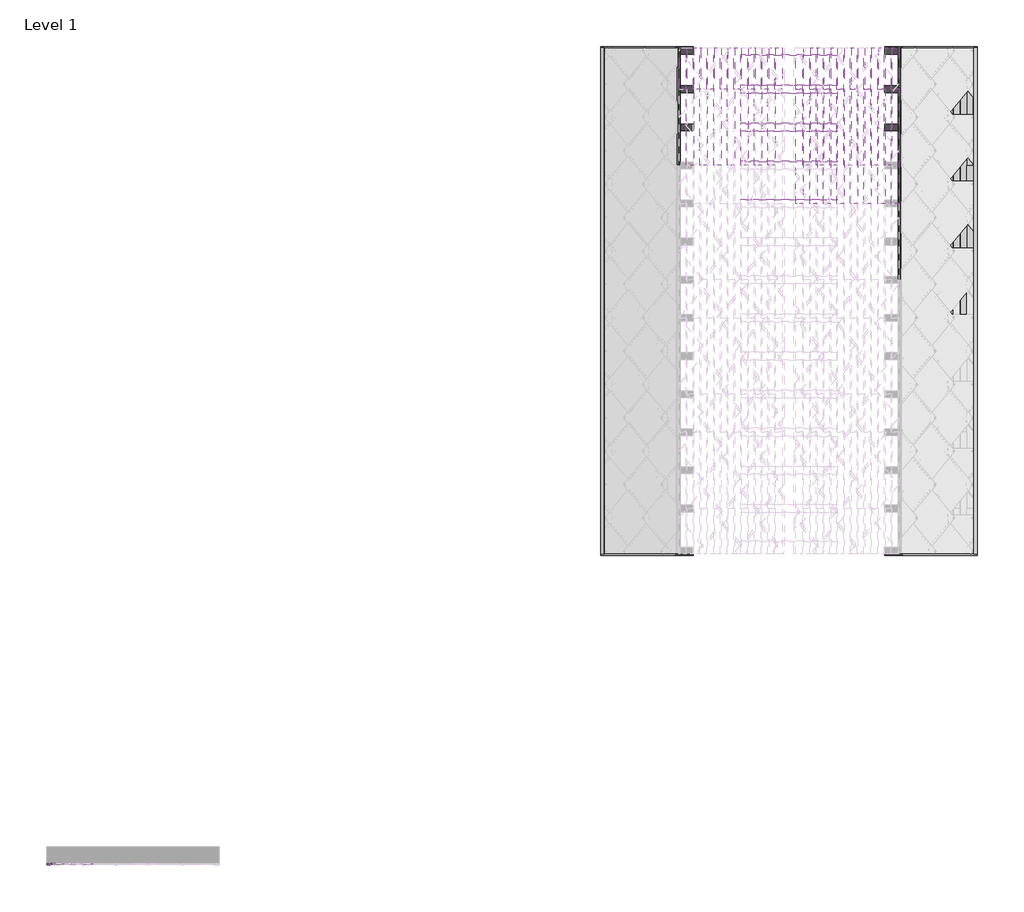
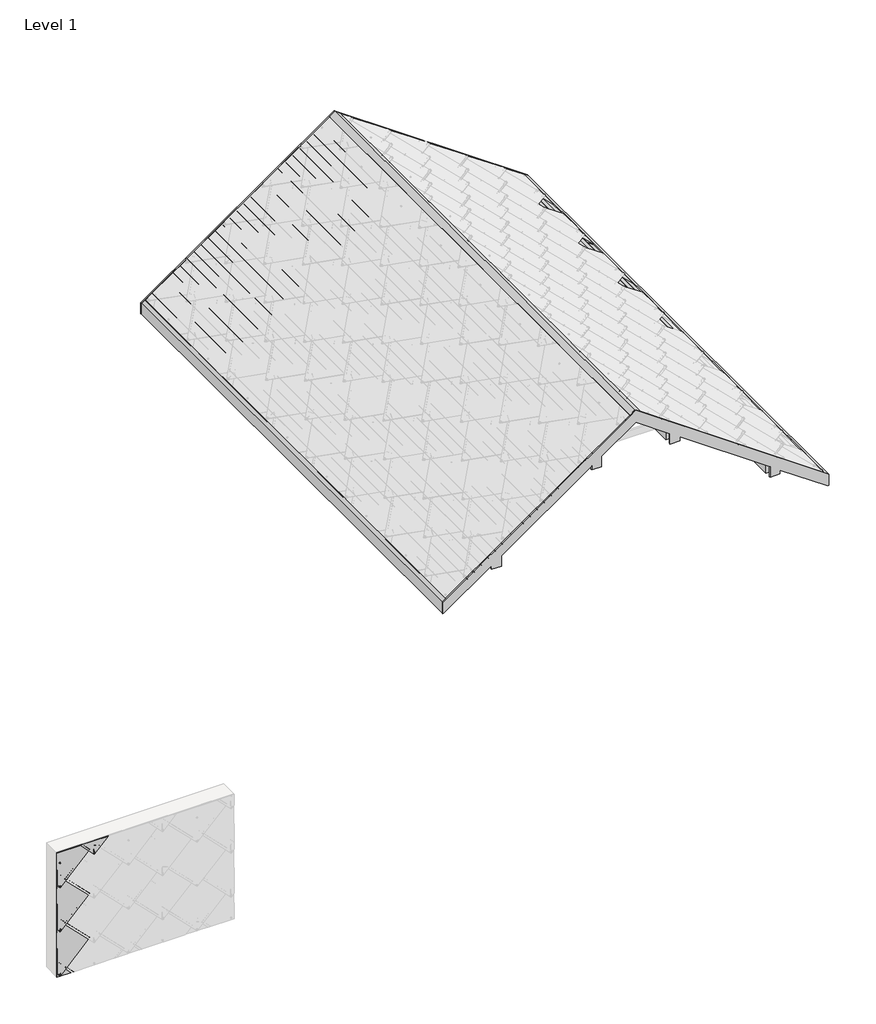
# One storey, part 3 of 6: 98 beams, 5 proxies.
"""IFC4 building model written with IfcOpenShell, lengths in millimetres."""

from ifc_helpers import new_model, si_unit, origin, place, context, project, spatial, transform, mapped, element, save
from components import structural_framing_1_structural_framing_1_4f4e03de, structural_framing_104_structural_framing_15_200a1adf, structural_framing_105_structural_framing_15_bbb8b2a2, structural_framing_150_structural_framing_15_f334a7cf, structural_framing_151_structural_framing_15_911aee75, structural_framing_152_structural_framing_15_fae30983, structural_framing_154_structural_framing_15_ddedf780, structural_framing_156_structural_framing_15_8572bb24, structural_framing_164_structural_framing_15_c8a2bcaa, structural_framing_155_structural_framing_15_fbad98d9, structural_framing_161_structural_framing_15_e03e88da, structural_framing_290_structural_framing_15_fb813978, structural_framing_291_structural_framing_15_41421fa0, structural_framing_293_structural_framing_15_7859e044, structural_framing_294_structural_framing_15_d6bc8154, structural_framing_295_structural_framing_295_6c3cb5e9, structural_framing_296_structural_framing_296_04115515, structural_framing_298_structural_framing_296_1c13a3da, structural_framing_321_structural_framing_321_04959c51, structural_framing_323_structural_framing_323_983c3ce1, structural_framing_324_structural_framing_323_6074106b, corner_bottom_small_left_black_13c94d74, corner_top_big_left_black_c61de7e8, roofing_panels_sunstyle_tile_shingle_left_shingle_left_black_68cb1fd1, roofing_panels_sunstyle_tile_shingle_top_small_shingle_top_f7f51557

model = new_model("IFC4")

# Units and contexts
model_context = context("Model", 3, world=origin())
ifc_project = project(units=[si_unit("LENGTHUNIT", "METRE", prefix="MILLI")], contexts=[model_context])

# Site, building, storey
site = spatial("IfcSite", under=ifc_project)
building = spatial("IfcBuilding", under=site)
storey = spatial("IfcBuildingStorey", under=building, Name="Level 1", Elevation=0.0)

# Beams
placement = place(None, origin())
structural_framing_1_structural_framing_1_shape = structural_framing_1_structural_framing_1_4f4e03de(model_context)
element("IfcBeam", 1, ObjectType="Structural Framing 1 : Structural Framing 1", at=placement, inside=storey, context=model_context, shape_type="MappedRepresentation", body=[
    mapped(structural_framing_1_structural_framing_1_shape, transform((0.0, 0.0, 0.0), x_axis=(1.0, 0.0, 0.0), y_axis=(0.0, 1.0, 0.0), z_axis=(0.0, 0.0, 1.0))),
])
structural_framing_104_structural_framing_15_shape = structural_framing_104_structural_framing_15_200a1adf(model_context)
element("IfcBeam", 2, ObjectType="Structural Framing 104 : Structural Framing 15", at=placement, inside=storey, context=model_context, shape_type="MappedRepresentation", body=[
    mapped(structural_framing_104_structural_framing_15_shape, transform((-2427.8516115, 0.0, -1700.0), x_axis=(1.0, 0.0, 0.0), y_axis=(0.0, 1.0, 0.0), z_axis=(0.0, 0.0, 1.0))),
])
structural_framing_105_structural_framing_15_shape = structural_framing_105_structural_framing_15_bbb8b2a2(model_context)
element("IfcBeam", 3, ObjectType="Structural Framing 105 : Structural Framing 15", at=placement, inside=storey, context=model_context, shape_type="MappedRepresentation", body=[
    mapped(structural_framing_105_structural_framing_15_shape, transform((-2570.6664121, 0.0, -1800.0), x_axis=(1.0, 0.0, 0.0), y_axis=(0.0, 1.0, 0.0), z_axis=(0.0, 0.0, 1.0))),
])
element("IfcBeam", 4, ObjectType="Structural Framing 114 : Structural Framing 15", at=placement, inside=storey, context=model_context, shape_type="MappedRepresentation", body=[
    mapped(structural_framing_104_structural_framing_15_shape, transform((-2713.4812128, 0.0, -1900.0), x_axis=(1.0, 0.0, 0.0), y_axis=(0.0, 1.0, 0.0), z_axis=(0.0, 0.0, 1.0))),
])
element("IfcBeam", 5, ObjectType="Structural Framing 115 : Structural Framing 15", at=placement, inside=storey, context=model_context, shape_type="MappedRepresentation", body=[
    mapped(structural_framing_105_structural_framing_15_shape, transform((-2856.2960135, 0.0, -2000.0), x_axis=(1.0, 0.0, 0.0), y_axis=(0.0, 1.0, 0.0), z_axis=(0.0, 0.0, 1.0))),
])
element("IfcBeam", 6, ObjectType="Structural Framing 124 : Structural Framing 15", at=placement, inside=storey, context=model_context, shape_type="MappedRepresentation", body=[
    mapped(structural_framing_104_structural_framing_15_shape, transform((-2999.1108142, 0.0, -2100.0), x_axis=(1.0, 0.0, 0.0), y_axis=(0.0, 1.0, 0.0), z_axis=(0.0, 0.0, 1.0))),
])
element("IfcBeam", 7, ObjectType="Structural Framing 125 : Structural Framing 15", at=placement, inside=storey, context=model_context, shape_type="MappedRepresentation", body=[
    mapped(structural_framing_105_structural_framing_15_shape, transform((-3141.9256148, 0.0, -2200.0), x_axis=(1.0, 0.0, 0.0), y_axis=(0.0, 1.0, 0.0), z_axis=(0.0, 0.0, 1.0))),
])
element("IfcBeam", 8, ObjectType="Structural Framing 134 : Structural Framing 15", at=placement, inside=storey, context=model_context, shape_type="MappedRepresentation", body=[
    mapped(structural_framing_104_structural_framing_15_shape, transform((-3284.7404155, 0.0, -2300.0), x_axis=(1.0, 0.0, 0.0), y_axis=(0.0, 1.0, 0.0), z_axis=(0.0, 0.0, 1.0))),
])
element("IfcBeam", 9, ObjectType="Structural Framing 135 : Structural Framing 15", at=placement, inside=storey, context=model_context, shape_type="MappedRepresentation", body=[
    mapped(structural_framing_105_structural_framing_15_shape, transform((-3427.5552162, 0.0, -2400.0), x_axis=(1.0, 0.0, 0.0), y_axis=(0.0, 1.0, 0.0), z_axis=(0.0, 0.0, 1.0))),
])
element("IfcBeam", 10, ObjectType="Structural Framing 144 : Structural Framing 15", at=placement, inside=storey, context=model_context, shape_type="MappedRepresentation", body=[
    mapped(structural_framing_104_structural_framing_15_shape, transform((-3570.3700169, 0.0, -2500.0), x_axis=(1.0, 0.0, 0.0), y_axis=(0.0, 1.0, 0.0), z_axis=(0.0, 0.0, 1.0))),
])
element("IfcBeam", 11, ObjectType="Structural Framing 145 : Structural Framing 15", at=placement, inside=storey, context=model_context, shape_type="MappedRepresentation", body=[
    mapped(structural_framing_105_structural_framing_15_shape, transform((-3713.1848175, 0.0, -2600.0), x_axis=(1.0, 0.0, 0.0), y_axis=(0.0, 1.0, 0.0), z_axis=(0.0, 0.0, 1.0))),
])
structural_framing_150_structural_framing_15_shape = structural_framing_150_structural_framing_15_f334a7cf(model_context)
element("IfcBeam", 12, ObjectType="Structural Framing 150 : Structural Framing 15", at=placement, inside=storey, context=model_context, shape_type="MappedRepresentation", body=[
    mapped(structural_framing_150_structural_framing_15_shape, transform((0.0, 0.0, 0.0), x_axis=(1.0, 0.0, 0.0), y_axis=(0.0, 1.0, 0.0), z_axis=(0.0, 0.0, 1.0))),
])
structural_framing_151_structural_framing_15_shape = structural_framing_151_structural_framing_15_911aee75(model_context)
element("IfcBeam", 13, ObjectType="Structural Framing 151 : Structural Framing 15", at=placement, inside=storey, context=model_context, shape_type="MappedRepresentation", body=[
    mapped(structural_framing_151_structural_framing_15_shape, transform((0.0, 2367.5, 0.0), x_axis=(1.0, 0.0, 0.0), y_axis=(0.0, 1.0, 0.0), z_axis=(0.0, 0.0, 1.0))),
])
structural_framing_152_structural_framing_15_shape = structural_framing_152_structural_framing_15_fae30983(model_context)
element("IfcBeam", 14, ObjectType="Structural Framing 152 : Structural Framing 15", at=placement, inside=storey, context=model_context, shape_type="MappedRepresentation", body=[
    mapped(structural_framing_152_structural_framing_15_shape, transform((0.0, 4837.5, 0.0), x_axis=(1.0, 0.0, 0.0), y_axis=(0.0, 1.0, 0.0), z_axis=(0.0, 0.0, 1.0))),
])
element("IfcBeam", 15, ObjectType="Structural Framing 153 : Structural Framing 15", at=placement, inside=storey, context=model_context, shape_type="MappedRepresentation", body=[
    mapped(structural_framing_152_structural_framing_15_shape, transform((0.0, 7237.5, 0.0), x_axis=(1.0, 0.0, 0.0), y_axis=(0.0, 1.0, 0.0), z_axis=(0.0, 0.0, 1.0))),
])
structural_framing_154_structural_framing_15_shape = structural_framing_154_structural_framing_15_ddedf780(model_context)
element("IfcBeam", 16, ObjectType="Structural Framing 154 : Structural Framing 15", at=placement, inside=storey, context=model_context, shape_type="MappedRepresentation", body=[
    mapped(structural_framing_154_structural_framing_15_shape, transform((0.0, 9637.5, 0.0), x_axis=(1.0, 0.0, 0.0), y_axis=(0.0, 1.0, 0.0), z_axis=(0.0, 0.0, 1.0))),
])
structural_framing_156_structural_framing_15_shape = structural_framing_156_structural_framing_15_8572bb24(model_context)
element("IfcBeam", 17, ObjectType="Structural Framing 160 : Structural Framing 15", at=placement, inside=storey, context=model_context, shape_type="MappedRepresentation", body=[
    mapped(structural_framing_156_structural_framing_15_shape, transform((142.8148007, -870.0, -100.0), x_axis=(1.0, 0.0, 0.0), y_axis=(0.0, 1.0, 0.0), z_axis=(0.0, 0.0, 1.0))),
])
structural_framing_164_structural_framing_15_shape = structural_framing_164_structural_framing_15_c8a2bcaa(model_context)
element("IfcBeam", 18, ObjectType="Structural Framing 164 : Structural Framing 15", at=placement, inside=storey, context=model_context, shape_type="MappedRepresentation", body=[
    mapped(structural_framing_164_structural_framing_15_shape, transform((142.8148007, 0.0, -100.0), x_axis=(1.0, 0.0, 0.0), y_axis=(0.0, 1.0, 0.0), z_axis=(0.0, 0.0, 1.0))),
])
structural_framing_155_structural_framing_15_shape = structural_framing_155_structural_framing_15_fbad98d9(model_context)
element("IfcBeam", 19, ObjectType="Structural Framing 165 : Structural Framing 15", at=placement, inside=storey, context=model_context, shape_type="MappedRepresentation", body=[
    mapped(structural_framing_155_structural_framing_15_shape, transform((285.6296013, 0.0, -200.0), x_axis=(1.0, 0.0, 0.0), y_axis=(0.0, 1.0, 0.0), z_axis=(0.0, 0.0, 1.0))),
])
element("IfcBeam", 20, ObjectType="Structural Framing 170 : Structural Framing 15", at=placement, inside=storey, context=model_context, shape_type="MappedRepresentation", body=[
    mapped(structural_framing_156_structural_framing_15_shape, transform((428.444402, -870.0, -300.0), x_axis=(1.0, 0.0, 0.0), y_axis=(0.0, 1.0, 0.0), z_axis=(0.0, 0.0, 1.0))),
])
element("IfcBeam", 21, ObjectType="Structural Framing 174 : Structural Framing 15", at=placement, inside=storey, context=model_context, shape_type="MappedRepresentation", body=[
    mapped(structural_framing_164_structural_framing_15_shape, transform((428.444402, 0.0, -300.0), x_axis=(1.0, 0.0, 0.0), y_axis=(0.0, 1.0, 0.0), z_axis=(0.0, 0.0, 1.0))),
])
element("IfcBeam", 22, ObjectType="Structural Framing 175 : Structural Framing 15", at=placement, inside=storey, context=model_context, shape_type="MappedRepresentation", body=[
    mapped(structural_framing_155_structural_framing_15_shape, transform((571.2592027, 0.0, -400.0), x_axis=(1.0, 0.0, 0.0), y_axis=(0.0, 1.0, 0.0), z_axis=(0.0, 0.0, 1.0))),
])
element("IfcBeam", 23, ObjectType="Structural Framing 180 : Structural Framing 15", at=placement, inside=storey, context=model_context, shape_type="MappedRepresentation", body=[
    mapped(structural_framing_156_structural_framing_15_shape, transform((714.0740034, -870.0, -500.0), x_axis=(1.0, 0.0, 0.0), y_axis=(0.0, 1.0, 0.0), z_axis=(0.0, 0.0, 1.0))),
])
element("IfcBeam", 24, ObjectType="Structural Framing 184 : Structural Framing 15", at=placement, inside=storey, context=model_context, shape_type="MappedRepresentation", body=[
    mapped(structural_framing_164_structural_framing_15_shape, transform((714.0740034, 0.0, -500.0), x_axis=(1.0, 0.0, 0.0), y_axis=(0.0, 1.0, 0.0), z_axis=(0.0, 0.0, 1.0))),
])
element("IfcBeam", 25, ObjectType="Structural Framing 185 : Structural Framing 15", at=placement, inside=storey, context=model_context, shape_type="MappedRepresentation", body=[
    mapped(structural_framing_155_structural_framing_15_shape, transform((856.888804, 0.0, -600.0), x_axis=(1.0, 0.0, 0.0), y_axis=(0.0, 1.0, 0.0), z_axis=(0.0, 0.0, 1.0))),
])
element("IfcBeam", 26, ObjectType="Structural Framing 190 : Structural Framing 15", at=placement, inside=storey, context=model_context, shape_type="MappedRepresentation", body=[
    mapped(structural_framing_156_structural_framing_15_shape, transform((999.7036047, -870.0, -700.0), x_axis=(1.0, 0.0, 0.0), y_axis=(0.0, 1.0, 0.0), z_axis=(0.0, 0.0, 1.0))),
])
element("IfcBeam", 27, ObjectType="Structural Framing 194 : Structural Framing 15", at=placement, inside=storey, context=model_context, shape_type="MappedRepresentation", body=[
    mapped(structural_framing_164_structural_framing_15_shape, transform((999.7036047, 0.0, -700.0), x_axis=(1.0, 0.0, 0.0), y_axis=(0.0, 1.0, 0.0), z_axis=(0.0, 0.0, 1.0))),
])
element("IfcBeam", 28, ObjectType="Structural Framing 195 : Structural Framing 15", at=placement, inside=storey, context=model_context, shape_type="MappedRepresentation", body=[
    mapped(structural_framing_155_structural_framing_15_shape, transform((1142.5184054, 0.0, -800.0), x_axis=(1.0, 0.0, 0.0), y_axis=(0.0, 1.0, 0.0), z_axis=(0.0, 0.0, 1.0))),
])
element("IfcBeam", 29, ObjectType="Structural Framing 2 : Structural Framing 1", at=placement, inside=storey, context=model_context, shape_type="MappedRepresentation", body=[
    mapped(structural_framing_1_structural_framing_1_shape, transform((0.0, -800.0, 0.0), x_axis=(1.0, 0.0, 0.0), y_axis=(0.0, 1.0, 0.0), z_axis=(0.0, 0.0, 1.0))),
])
element("IfcBeam", 30, ObjectType="Structural Framing 200 : Structural Framing 15", at=placement, inside=storey, context=model_context, shape_type="MappedRepresentation", body=[
    mapped(structural_framing_156_structural_framing_15_shape, transform((1285.3332061, -870.0, -900.0), x_axis=(1.0, 0.0, 0.0), y_axis=(0.0, 1.0, 0.0), z_axis=(0.0, 0.0, 1.0))),
])
element("IfcBeam", 31, ObjectType="Structural Framing 204 : Structural Framing 15", at=placement, inside=storey, context=model_context, shape_type="MappedRepresentation", body=[
    mapped(structural_framing_164_structural_framing_15_shape, transform((1285.3332061, 0.0, -900.0), x_axis=(1.0, 0.0, 0.0), y_axis=(0.0, 1.0, 0.0), z_axis=(0.0, 0.0, 1.0))),
])
element("IfcBeam", 32, ObjectType="Structural Framing 205 : Structural Framing 15", at=placement, inside=storey, context=model_context, shape_type="MappedRepresentation", body=[
    mapped(structural_framing_155_structural_framing_15_shape, transform((1428.1480067, 0.0, -1000.0), x_axis=(1.0, 0.0, 0.0), y_axis=(0.0, 1.0, 0.0), z_axis=(0.0, 0.0, 1.0))),
])
element("IfcBeam", 33, ObjectType="Structural Framing 210 : Structural Framing 15", at=placement, inside=storey, context=model_context, shape_type="MappedRepresentation", body=[
    mapped(structural_framing_156_structural_framing_15_shape, transform((1570.9628074, -870.0, -1100.0), x_axis=(1.0, 0.0, 0.0), y_axis=(0.0, 1.0, 0.0), z_axis=(0.0, 0.0, 1.0))),
])
element("IfcBeam", 34, ObjectType="Structural Framing 214 : Structural Framing 15", at=placement, inside=storey, context=model_context, shape_type="MappedRepresentation", body=[
    mapped(structural_framing_164_structural_framing_15_shape, transform((1570.9628074, 0.0, -1100.0), x_axis=(1.0, 0.0, 0.0), y_axis=(0.0, 1.0, 0.0), z_axis=(0.0, 0.0, 1.0))),
])
element("IfcBeam", 35, ObjectType="Structural Framing 215 : Structural Framing 15", at=placement, inside=storey, context=model_context, shape_type="MappedRepresentation", body=[
    mapped(structural_framing_155_structural_framing_15_shape, transform((1713.7776081, 0.0, -1200.0), x_axis=(1.0, 0.0, 0.0), y_axis=(0.0, 1.0, 0.0), z_axis=(0.0, 0.0, 1.0))),
])
element("IfcBeam", 36, ObjectType="Structural Framing 220 : Structural Framing 15", at=placement, inside=storey, context=model_context, shape_type="MappedRepresentation", body=[
    mapped(structural_framing_156_structural_framing_15_shape, transform((1856.5924088, -870.0, -1300.0), x_axis=(1.0, 0.0, 0.0), y_axis=(0.0, 1.0, 0.0), z_axis=(0.0, 0.0, 1.0))),
])
element("IfcBeam", 37, ObjectType="Structural Framing 224 : Structural Framing 15", at=placement, inside=storey, context=model_context, shape_type="MappedRepresentation", body=[
    mapped(structural_framing_164_structural_framing_15_shape, transform((1856.5924088, 0.0, -1300.0), x_axis=(1.0, 0.0, 0.0), y_axis=(0.0, 1.0, 0.0), z_axis=(0.0, 0.0, 1.0))),
])
element("IfcBeam", 38, ObjectType="Structural Framing 225 : Structural Framing 15", at=placement, inside=storey, context=model_context, shape_type="MappedRepresentation", body=[
    mapped(structural_framing_155_structural_framing_15_shape, transform((1999.4072094, 0.0, -1400.0), x_axis=(1.0, 0.0, 0.0), y_axis=(0.0, 1.0, 0.0), z_axis=(0.0, 0.0, 1.0))),
])
element("IfcBeam", 39, ObjectType="Structural Framing 230 : Structural Framing 15", at=placement, inside=storey, context=model_context, shape_type="MappedRepresentation", body=[
    mapped(structural_framing_156_structural_framing_15_shape, transform((2142.2220101, -870.0, -1500.0), x_axis=(1.0, 0.0, 0.0), y_axis=(0.0, 1.0, 0.0), z_axis=(0.0, 0.0, 1.0))),
])
element("IfcBeam", 40, ObjectType="Structural Framing 234 : Structural Framing 15", at=placement, inside=storey, context=model_context, shape_type="MappedRepresentation", body=[
    mapped(structural_framing_164_structural_framing_15_shape, transform((2142.2220101, 0.0, -1500.0), x_axis=(1.0, 0.0, 0.0), y_axis=(0.0, 1.0, 0.0), z_axis=(0.0, 0.0, 1.0))),
])
element("IfcBeam", 41, ObjectType="Structural Framing 235 : Structural Framing 15", at=placement, inside=storey, context=model_context, shape_type="MappedRepresentation", body=[
    mapped(structural_framing_155_structural_framing_15_shape, transform((2285.0368108, 0.0, -1600.0), x_axis=(1.0, 0.0, 0.0), y_axis=(0.0, 1.0, 0.0), z_axis=(0.0, 0.0, 1.0))),
])
element("IfcBeam", 42, ObjectType="Structural Framing 236 : Structural Framing 15", at=placement, inside=storey, context=model_context, shape_type="MappedRepresentation", body=[
    mapped(structural_framing_156_structural_framing_15_shape, transform((2285.0368108, -2470.0, -1600.0), x_axis=(1.0, 0.0, 0.0), y_axis=(0.0, 1.0, 0.0), z_axis=(0.0, 0.0, 1.0))),
])
element("IfcBeam", 43, ObjectType="Structural Framing 24 : Structural Framing 15", at=placement, inside=storey, context=model_context, shape_type="MappedRepresentation", body=[
    mapped(structural_framing_104_structural_framing_15_shape, transform((-142.8148007, 0.0, -100.0), x_axis=(1.0, 0.0, 0.0), y_axis=(0.0, 1.0, 0.0), z_axis=(0.0, 0.0, 1.0))),
])
element("IfcBeam", 44, ObjectType="Structural Framing 240 : Structural Framing 15", at=placement, inside=storey, context=model_context, shape_type="MappedRepresentation", body=[
    mapped(structural_framing_156_structural_framing_15_shape, transform((2427.8516115, -870.0, -1700.0), x_axis=(1.0, 0.0, 0.0), y_axis=(0.0, 1.0, 0.0), z_axis=(0.0, 0.0, 1.0))),
])
element("IfcBeam", 45, ObjectType="Structural Framing 244 : Structural Framing 15", at=placement, inside=storey, context=model_context, shape_type="MappedRepresentation", body=[
    mapped(structural_framing_164_structural_framing_15_shape, transform((2427.8516115, 0.0, -1700.0), x_axis=(1.0, 0.0, 0.0), y_axis=(0.0, 1.0, 0.0), z_axis=(0.0, 0.0, 1.0))),
])
element("IfcBeam", 46, ObjectType="Structural Framing 245 : Structural Framing 15", at=placement, inside=storey, context=model_context, shape_type="MappedRepresentation", body=[
    mapped(structural_framing_155_structural_framing_15_shape, transform((2570.6664121, 0.0, -1800.0), x_axis=(1.0, 0.0, 0.0), y_axis=(0.0, 1.0, 0.0), z_axis=(0.0, 0.0, 1.0))),
])
element("IfcBeam", 47, ObjectType="Structural Framing 246 : Structural Framing 15", at=placement, inside=storey, context=model_context, shape_type="MappedRepresentation", body=[
    mapped(structural_framing_156_structural_framing_15_shape, transform((2570.6664121, -2470.0, -1800.0), x_axis=(1.0, 0.0, 0.0), y_axis=(0.0, 1.0, 0.0), z_axis=(0.0, 0.0, 1.0))),
])
element("IfcBeam", 48, ObjectType="Structural Framing 25 : Structural Framing 15", at=placement, inside=storey, context=model_context, shape_type="MappedRepresentation", body=[
    mapped(structural_framing_105_structural_framing_15_shape, transform((-285.6296013, 0.0, -200.0), x_axis=(1.0, 0.0, 0.0), y_axis=(0.0, 1.0, 0.0), z_axis=(0.0, 0.0, 1.0))),
])
element("IfcBeam", 49, ObjectType="Structural Framing 250 : Structural Framing 15", at=placement, inside=storey, context=model_context, shape_type="MappedRepresentation", body=[
    mapped(structural_framing_156_structural_framing_15_shape, transform((2713.4812128, -870.0, -1900.0), x_axis=(1.0, 0.0, 0.0), y_axis=(0.0, 1.0, 0.0), z_axis=(0.0, 0.0, 1.0))),
])
element("IfcBeam", 50, ObjectType="Structural Framing 254 : Structural Framing 15", at=placement, inside=storey, context=model_context, shape_type="MappedRepresentation", body=[
    mapped(structural_framing_164_structural_framing_15_shape, transform((2713.4812128, 0.0, -1900.0), x_axis=(1.0, 0.0, 0.0), y_axis=(0.0, 1.0, 0.0), z_axis=(0.0, 0.0, 1.0))),
])
element("IfcBeam", 51, ObjectType="Structural Framing 255 : Structural Framing 15", at=placement, inside=storey, context=model_context, shape_type="MappedRepresentation", body=[
    mapped(structural_framing_155_structural_framing_15_shape, transform((2856.2960135, 0.0, -2000.0), x_axis=(1.0, 0.0, 0.0), y_axis=(0.0, 1.0, 0.0), z_axis=(0.0, 0.0, 1.0))),
])
element("IfcBeam", 52, ObjectType="Structural Framing 256 : Structural Framing 15", at=placement, inside=storey, context=model_context, shape_type="MappedRepresentation", body=[
    mapped(structural_framing_156_structural_framing_15_shape, transform((2856.2960135, -2470.0, -2000.0), x_axis=(1.0, 0.0, 0.0), y_axis=(0.0, 1.0, 0.0), z_axis=(0.0, 0.0, 1.0))),
])
element("IfcBeam", 53, ObjectType="Structural Framing 260 : Structural Framing 15", at=placement, inside=storey, context=model_context, shape_type="MappedRepresentation", body=[
    mapped(structural_framing_156_structural_framing_15_shape, transform((2999.1108142, -870.0, -2100.0), x_axis=(1.0, 0.0, 0.0), y_axis=(0.0, 1.0, 0.0), z_axis=(0.0, 0.0, 1.0))),
])
structural_framing_161_structural_framing_15_shape = structural_framing_161_structural_framing_15_e03e88da(model_context)
element("IfcBeam", 54, ObjectType="Structural Framing 261 : Structural Framing 15", at=placement, inside=storey, context=model_context, shape_type="MappedRepresentation", body=[
    mapped(structural_framing_161_structural_framing_15_shape, transform((2999.1108142, -3340.0, -2100.0), x_axis=(1.0, 0.0, 0.0), y_axis=(0.0, 1.0, 0.0), z_axis=(0.0, 0.0, 1.0))),
])
element("IfcBeam", 55, ObjectType="Structural Framing 264 : Structural Framing 15", at=placement, inside=storey, context=model_context, shape_type="MappedRepresentation", body=[
    mapped(structural_framing_164_structural_framing_15_shape, transform((2999.1108142, 0.0, -2100.0), x_axis=(1.0, 0.0, 0.0), y_axis=(0.0, 1.0, 0.0), z_axis=(0.0, 0.0, 1.0))),
])
element("IfcBeam", 56, ObjectType="Structural Framing 265 : Structural Framing 15", at=placement, inside=storey, context=model_context, shape_type="MappedRepresentation", body=[
    mapped(structural_framing_155_structural_framing_15_shape, transform((3141.9256148, 0.0, -2200.0), x_axis=(1.0, 0.0, 0.0), y_axis=(0.0, 1.0, 0.0), z_axis=(0.0, 0.0, 1.0))),
])
element("IfcBeam", 57, ObjectType="Structural Framing 266 : Structural Framing 15", at=placement, inside=storey, context=model_context, shape_type="MappedRepresentation", body=[
    mapped(structural_framing_156_structural_framing_15_shape, transform((3141.9256148, -2470.0, -2200.0), x_axis=(1.0, 0.0, 0.0), y_axis=(0.0, 1.0, 0.0), z_axis=(0.0, 0.0, 1.0))),
])
element("IfcBeam", 58, ObjectType="Structural Framing 270 : Structural Framing 15", at=placement, inside=storey, context=model_context, shape_type="MappedRepresentation", body=[
    mapped(structural_framing_156_structural_framing_15_shape, transform((3284.7404155, -870.0, -2300.0), x_axis=(1.0, 0.0, 0.0), y_axis=(0.0, 1.0, 0.0), z_axis=(0.0, 0.0, 1.0))),
])
element("IfcBeam", 59, ObjectType="Structural Framing 271 : Structural Framing 15", at=placement, inside=storey, context=model_context, shape_type="MappedRepresentation", body=[
    mapped(structural_framing_161_structural_framing_15_shape, transform((3284.7404155, -3340.0, -2300.0), x_axis=(1.0, 0.0, 0.0), y_axis=(0.0, 1.0, 0.0), z_axis=(0.0, 0.0, 1.0))),
])
element("IfcBeam", 60, ObjectType="Structural Framing 274 : Structural Framing 15", at=placement, inside=storey, context=model_context, shape_type="MappedRepresentation", body=[
    mapped(structural_framing_164_structural_framing_15_shape, transform((3284.7404155, 0.0, -2300.0), x_axis=(1.0, 0.0, 0.0), y_axis=(0.0, 1.0, 0.0), z_axis=(0.0, 0.0, 1.0))),
])
element("IfcBeam", 61, ObjectType="Structural Framing 275 : Structural Framing 15", at=placement, inside=storey, context=model_context, shape_type="MappedRepresentation", body=[
    mapped(structural_framing_155_structural_framing_15_shape, transform((3427.5552162, 0.0, -2400.0), x_axis=(1.0, 0.0, 0.0), y_axis=(0.0, 1.0, 0.0), z_axis=(0.0, 0.0, 1.0))),
])
element("IfcBeam", 62, ObjectType="Structural Framing 276 : Structural Framing 15", at=placement, inside=storey, context=model_context, shape_type="MappedRepresentation", body=[
    mapped(structural_framing_156_structural_framing_15_shape, transform((3427.5552162, -2470.0, -2400.0), x_axis=(1.0, 0.0, 0.0), y_axis=(0.0, 1.0, 0.0), z_axis=(0.0, 0.0, 1.0))),
])
element("IfcBeam", 63, ObjectType="Structural Framing 280 : Structural Framing 15", at=placement, inside=storey, context=model_context, shape_type="MappedRepresentation", body=[
    mapped(structural_framing_156_structural_framing_15_shape, transform((3570.3700169, -870.0, -2500.0), x_axis=(1.0, 0.0, 0.0), y_axis=(0.0, 1.0, 0.0), z_axis=(0.0, 0.0, 1.0))),
])
element("IfcBeam", 64, ObjectType="Structural Framing 281 : Structural Framing 15", at=placement, inside=storey, context=model_context, shape_type="MappedRepresentation", body=[
    mapped(structural_framing_161_structural_framing_15_shape, transform((3570.3700169, -3340.0, -2500.0), x_axis=(1.0, 0.0, 0.0), y_axis=(0.0, 1.0, 0.0), z_axis=(0.0, 0.0, 1.0))),
])
element("IfcBeam", 65, ObjectType="Structural Framing 284 : Structural Framing 15", at=placement, inside=storey, context=model_context, shape_type="MappedRepresentation", body=[
    mapped(structural_framing_164_structural_framing_15_shape, transform((3570.3700169, 0.0, -2500.0), x_axis=(1.0, 0.0, 0.0), y_axis=(0.0, 1.0, 0.0), z_axis=(0.0, 0.0, 1.0))),
])
element("IfcBeam", 66, ObjectType="Structural Framing 285 : Structural Framing 15", at=placement, inside=storey, context=model_context, shape_type="MappedRepresentation", body=[
    mapped(structural_framing_155_structural_framing_15_shape, transform((3713.1848175, 0.0, -2600.0), x_axis=(1.0, 0.0, 0.0), y_axis=(0.0, 1.0, 0.0), z_axis=(0.0, 0.0, 1.0))),
])
element("IfcBeam", 67, ObjectType="Structural Framing 286 : Structural Framing 15", at=placement, inside=storey, context=model_context, shape_type="MappedRepresentation", body=[
    mapped(structural_framing_156_structural_framing_15_shape, transform((3713.1848175, -2470.0, -2600.0), x_axis=(1.0, 0.0, 0.0), y_axis=(0.0, 1.0, 0.0), z_axis=(0.0, 0.0, 1.0))),
])
structural_framing_290_structural_framing_15_shape = structural_framing_290_structural_framing_15_fb813978(model_context)
element("IfcBeam", 68, ObjectType="Structural Framing 290 : Structural Framing 15", at=placement, inside=storey, context=model_context, shape_type="MappedRepresentation", body=[
    mapped(structural_framing_290_structural_framing_15_shape, transform((0.0, 2367.5, 0.0), x_axis=(1.0, 0.0, 0.0), y_axis=(0.0, 1.0, 0.0), z_axis=(0.0, 0.0, 1.0))),
])
structural_framing_291_structural_framing_15_shape = structural_framing_291_structural_framing_15_41421fa0(model_context)
element("IfcBeam", 69, ObjectType="Structural Framing 291 : Structural Framing 15", at=placement, inside=storey, context=model_context, shape_type="MappedRepresentation", body=[
    mapped(structural_framing_291_structural_framing_15_shape, transform((0.0, 4837.5, 0.0), x_axis=(1.0, 0.0, 0.0), y_axis=(0.0, 1.0, 0.0), z_axis=(0.0, 0.0, 1.0))),
])
element("IfcBeam", 70, ObjectType="Structural Framing 292 : Structural Framing 15", at=placement, inside=storey, context=model_context, shape_type="MappedRepresentation", body=[
    mapped(structural_framing_291_structural_framing_15_shape, transform((0.0, 7237.5, 0.0), x_axis=(1.0, 0.0, 0.0), y_axis=(0.0, 1.0, 0.0), z_axis=(0.0, 0.0, 1.0))),
])
structural_framing_293_structural_framing_15_shape = structural_framing_293_structural_framing_15_7859e044(model_context)
element("IfcBeam", 71, ObjectType="Structural Framing 293 : Structural Framing 15", at=placement, inside=storey, context=model_context, shape_type="MappedRepresentation", body=[
    mapped(structural_framing_293_structural_framing_15_shape, transform((0.0, 0.0, 0.0), x_axis=(1.0, 0.0, 0.0), y_axis=(0.0, 1.0, 0.0), z_axis=(0.0, 0.0, 1.0))),
])
structural_framing_294_structural_framing_15_shape = structural_framing_294_structural_framing_15_d6bc8154(model_context)
element("IfcBeam", 72, ObjectType="Structural Framing 294 : Structural Framing 15", at=placement, inside=storey, context=model_context, shape_type="MappedRepresentation", body=[
    mapped(structural_framing_294_structural_framing_15_shape, transform((0.0, 9637.5, 0.0), x_axis=(1.0, 0.0, 0.0), y_axis=(0.0, 1.0, 0.0), z_axis=(0.0, 0.0, 1.0))),
])
structural_framing_295_structural_framing_295_shape = structural_framing_295_structural_framing_295_6c3cb5e9(model_context)
element("IfcBeam", 73, ObjectType="Structural Framing 295 : Structural Framing 295", at=placement, inside=storey, context=model_context, shape_type="MappedRepresentation", body=[
    mapped(structural_framing_295_structural_framing_295_shape, transform((0.0, 0.0, 0.0), x_axis=(1.0, 0.0, 0.0), y_axis=(0.0, 1.0, 0.0), z_axis=(0.0, 0.0, 1.0))),
])
structural_framing_296_structural_framing_296_shape = structural_framing_296_structural_framing_296_04115515(model_context)
element("IfcBeam", 74, ObjectType="Structural Framing 296 : Structural Framing 296", at=placement, inside=storey, context=model_context, shape_type="MappedRepresentation", body=[
    mapped(structural_framing_296_structural_framing_296_shape, transform((0.0, 0.0, 0.0), x_axis=(1.0, 0.0, 0.0), y_axis=(0.0, 1.0, 0.0), z_axis=(0.0, 0.0, 1.0))),
])
element("IfcBeam", 75, ObjectType="Structural Framing 297 : Structural Framing 296", at=placement, inside=storey, context=model_context, shape_type="MappedRepresentation", body=[
    mapped(structural_framing_296_structural_framing_296_shape, transform((0.0, -800.0, 0.0), x_axis=(1.0, 0.0, 0.0), y_axis=(0.0, 1.0, 0.0), z_axis=(0.0, 0.0, 1.0))),
])
structural_framing_298_structural_framing_296_shape = structural_framing_298_structural_framing_296_1c13a3da(model_context)
element("IfcBeam", 76, ObjectType="Structural Framing 298 : Structural Framing 296", at=placement, inside=storey, context=model_context, shape_type="MappedRepresentation", body=[
    mapped(structural_framing_298_structural_framing_296_shape, transform((0.0, 800.0, 0.0), x_axis=(1.0, 0.0, 0.0), y_axis=(0.0, 1.0, 0.0), z_axis=(0.0, 0.0, 1.0))),
])
element("IfcBeam", 77, ObjectType="Structural Framing 299 : Structural Framing 296", at=placement, inside=storey, context=model_context, shape_type="MappedRepresentation", body=[
    mapped(structural_framing_296_structural_framing_296_shape, transform((0.0, -1600.0, 0.0), x_axis=(1.0, 0.0, 0.0), y_axis=(0.0, 1.0, 0.0), z_axis=(0.0, 0.0, 1.0))),
])
element("IfcBeam", 78, ObjectType="Structural Framing 3 : Structural Framing 1", at=placement, inside=storey, context=model_context, shape_type="MappedRepresentation", body=[
    mapped(structural_framing_1_structural_framing_1_shape, transform((0.0, -1600.0, 0.0), x_axis=(1.0, 0.0, 0.0), y_axis=(0.0, 1.0, 0.0), z_axis=(0.0, 0.0, 1.0))),
])
element("IfcBeam", 79, ObjectType="Structural Framing 300 : Structural Framing 296", at=placement, inside=storey, context=model_context, shape_type="MappedRepresentation", body=[
    mapped(structural_framing_298_structural_framing_296_shape, transform((0.0, 0.0, 0.0), x_axis=(1.0, 0.0, 0.0), y_axis=(0.0, 1.0, 0.0), z_axis=(0.0, 0.0, 1.0))),
])
element("IfcBeam", 80, ObjectType="Structural Framing 302 : Structural Framing 296", at=placement, inside=storey, context=model_context, shape_type="MappedRepresentation", body=[
    mapped(structural_framing_298_structural_framing_296_shape, transform((0.0, -800.0, 0.0), x_axis=(1.0, 0.0, 0.0), y_axis=(0.0, 1.0, 0.0), z_axis=(0.0, 0.0, 1.0))),
])
element("IfcBeam", 81, ObjectType="Structural Framing 304 : Structural Framing 296", at=placement, inside=storey, context=model_context, shape_type="MappedRepresentation", body=[
    mapped(structural_framing_298_structural_framing_296_shape, transform((0.0, -1600.0, 0.0), x_axis=(1.0, 0.0, 0.0), y_axis=(0.0, 1.0, 0.0), z_axis=(0.0, 0.0, 1.0))),
])
structural_framing_321_structural_framing_321_shape = structural_framing_321_structural_framing_321_04959c51(model_context)
element("IfcBeam", 82, ObjectType="Structural Framing 321 : Structural Framing 321", at=placement, inside=storey, context=model_context, shape_type="MappedRepresentation", body=[
    mapped(structural_framing_321_structural_framing_321_shape, transform((0.0, 0.0, 0.0), x_axis=(1.0, 0.0, 0.0), y_axis=(0.0, 1.0, 0.0), z_axis=(0.0, 0.0, 1.0))),
])
structural_framing_323_structural_framing_323_shape = structural_framing_323_structural_framing_323_983c3ce1(model_context)
element("IfcBeam", 83, ObjectType="Structural Framing 323 : Structural Framing 323", at=placement, inside=storey, context=model_context, shape_type="MappedRepresentation", body=[
    mapped(structural_framing_323_structural_framing_323_shape, transform((0.0, 0.0, 0.0), x_axis=(1.0, 0.0, 0.0), y_axis=(0.0, 1.0, 0.0), z_axis=(0.0, 0.0, 1.0))),
])
structural_framing_324_structural_framing_323_shape = structural_framing_324_structural_framing_323_6074106b(model_context)
element("IfcBeam", 84, ObjectType="Structural Framing 324 : Structural Framing 323", at=placement, inside=storey, context=model_context, shape_type="MappedRepresentation", body=[
    mapped(structural_framing_324_structural_framing_323_shape, transform((0.0, 0.0, 0.0), x_axis=(1.0, 0.0, 0.0), y_axis=(0.0, 1.0, 0.0), z_axis=(0.0, 0.0, 1.0))),
])
element("IfcBeam", 85, ObjectType="Structural Framing 34 : Structural Framing 15", at=placement, inside=storey, context=model_context, shape_type="MappedRepresentation", body=[
    mapped(structural_framing_104_structural_framing_15_shape, transform((-428.444402, 0.0, -300.0), x_axis=(1.0, 0.0, 0.0), y_axis=(0.0, 1.0, 0.0), z_axis=(0.0, 0.0, 1.0))),
])
element("IfcBeam", 86, ObjectType="Structural Framing 35 : Structural Framing 15", at=placement, inside=storey, context=model_context, shape_type="MappedRepresentation", body=[
    mapped(structural_framing_105_structural_framing_15_shape, transform((-571.2592027, 0.0, -400.0), x_axis=(1.0, 0.0, 0.0), y_axis=(0.0, 1.0, 0.0), z_axis=(0.0, 0.0, 1.0))),
])
element("IfcBeam", 87, ObjectType="Structural Framing 44 : Structural Framing 15", at=placement, inside=storey, context=model_context, shape_type="MappedRepresentation", body=[
    mapped(structural_framing_104_structural_framing_15_shape, transform((-714.0740034, 0.0, -500.0), x_axis=(1.0, 0.0, 0.0), y_axis=(0.0, 1.0, 0.0), z_axis=(0.0, 0.0, 1.0))),
])
element("IfcBeam", 88, ObjectType="Structural Framing 45 : Structural Framing 15", at=placement, inside=storey, context=model_context, shape_type="MappedRepresentation", body=[
    mapped(structural_framing_105_structural_framing_15_shape, transform((-856.888804, 0.0, -600.0), x_axis=(1.0, 0.0, 0.0), y_axis=(0.0, 1.0, 0.0), z_axis=(0.0, 0.0, 1.0))),
])
element("IfcBeam", 89, ObjectType="Structural Framing 54 : Structural Framing 15", at=placement, inside=storey, context=model_context, shape_type="MappedRepresentation", body=[
    mapped(structural_framing_104_structural_framing_15_shape, transform((-999.7036047, 0.0, -700.0), x_axis=(1.0, 0.0, 0.0), y_axis=(0.0, 1.0, 0.0), z_axis=(0.0, 0.0, 1.0))),
])
element("IfcBeam", 90, ObjectType="Structural Framing 55 : Structural Framing 15", at=placement, inside=storey, context=model_context, shape_type="MappedRepresentation", body=[
    mapped(structural_framing_105_structural_framing_15_shape, transform((-1142.5184054, 0.0, -800.0), x_axis=(1.0, 0.0, 0.0), y_axis=(0.0, 1.0, 0.0), z_axis=(0.0, 0.0, 1.0))),
])
element("IfcBeam", 91, ObjectType="Structural Framing 64 : Structural Framing 15", at=placement, inside=storey, context=model_context, shape_type="MappedRepresentation", body=[
    mapped(structural_framing_104_structural_framing_15_shape, transform((-1285.3332061, 0.0, -900.0), x_axis=(1.0, 0.0, 0.0), y_axis=(0.0, 1.0, 0.0), z_axis=(0.0, 0.0, 1.0))),
])
element("IfcBeam", 92, ObjectType="Structural Framing 65 : Structural Framing 15", at=placement, inside=storey, context=model_context, shape_type="MappedRepresentation", body=[
    mapped(structural_framing_105_structural_framing_15_shape, transform((-1428.1480067, 0.0, -1000.0), x_axis=(1.0, 0.0, 0.0), y_axis=(0.0, 1.0, 0.0), z_axis=(0.0, 0.0, 1.0))),
])
element("IfcBeam", 93, ObjectType="Structural Framing 74 : Structural Framing 15", at=placement, inside=storey, context=model_context, shape_type="MappedRepresentation", body=[
    mapped(structural_framing_104_structural_framing_15_shape, transform((-1570.9628074, 0.0, -1100.0), x_axis=(1.0, 0.0, 0.0), y_axis=(0.0, 1.0, 0.0), z_axis=(0.0, 0.0, 1.0))),
])
element("IfcBeam", 94, ObjectType="Structural Framing 75 : Structural Framing 15", at=placement, inside=storey, context=model_context, shape_type="MappedRepresentation", body=[
    mapped(structural_framing_105_structural_framing_15_shape, transform((-1713.7776081, 0.0, -1200.0), x_axis=(1.0, 0.0, 0.0), y_axis=(0.0, 1.0, 0.0), z_axis=(0.0, 0.0, 1.0))),
])
element("IfcBeam", 95, ObjectType="Structural Framing 84 : Structural Framing 15", at=placement, inside=storey, context=model_context, shape_type="MappedRepresentation", body=[
    mapped(structural_framing_104_structural_framing_15_shape, transform((-1856.5924088, 0.0, -1300.0), x_axis=(1.0, 0.0, 0.0), y_axis=(0.0, 1.0, 0.0), z_axis=(0.0, 0.0, 1.0))),
])
element("IfcBeam", 96, ObjectType="Structural Framing 85 : Structural Framing 15", at=placement, inside=storey, context=model_context, shape_type="MappedRepresentation", body=[
    mapped(structural_framing_105_structural_framing_15_shape, transform((-1999.4072094, 0.0, -1400.0), x_axis=(1.0, 0.0, 0.0), y_axis=(0.0, 1.0, 0.0), z_axis=(0.0, 0.0, 1.0))),
])
element("IfcBeam", 97, ObjectType="Structural Framing 94 : Structural Framing 15", at=placement, inside=storey, context=model_context, shape_type="MappedRepresentation", body=[
    mapped(structural_framing_104_structural_framing_15_shape, transform((-2142.2220101, 0.0, -1500.0), x_axis=(1.0, 0.0, 0.0), y_axis=(0.0, 1.0, 0.0), z_axis=(0.0, 0.0, 1.0))),
])
element("IfcBeam", 98, ObjectType="Structural Framing 95 : Structural Framing 15", at=placement, inside=storey, context=model_context, shape_type="MappedRepresentation", body=[
    mapped(structural_framing_105_structural_framing_15_shape, transform((-2285.0368108, 0.0, -1600.0), x_axis=(1.0, 0.0, 0.0), y_axis=(0.0, 1.0, 0.0), z_axis=(0.0, 0.0, 1.0))),
])

# Proxies
corner_bottom_small_left_black_shape = corner_bottom_small_left_black_13c94d74(model_context)
element("IfcBuildingElementProxy", 99, Name="Roofing_Panels_SunStyle_Tile_Corner-Bottom-Small-Left : Corner Bottom Small Left - Terracotta", ObjectType="Roofing_Panels_SunStyle_Tile_Corner-Bottom-Small-Left : Corner Bottom Small Left - Terracotta", at=placement, inside=storey, context=model_context, shape_type="MappedRepresentation", body=[
    mapped(corner_bottom_small_left_black_shape, transform((-14307.7909552, -13191.8736519, -329.2), x_axis=(1.0, 0.0, 0.0), y_axis=(0.0, 0.0, 1.0), z_axis=(0.0, -1.0, 0.0))),
])
corner_top_big_left_black_shape = corner_top_big_left_black_c61de7e8(model_context)
element("IfcBuildingElementProxy", 100, Name="Roofing_Panels_SunStyle_Tile_Corner-Top-Big-Left : Corner Top Big Left - Terracotta", ObjectType="Roofing_Panels_SunStyle_Tile_Corner-Top-Big-Left : Corner Top Big Left - Terracotta", at=placement, inside=storey, context=model_context, shape_type="MappedRepresentation", body=[
    mapped(corner_top_big_left_black_shape, transform((-14307.7909552, -13191.8736519, 2530.8), x_axis=(1.0, 0.0, 0.0), y_axis=(0.0, 0.0, 1.0), z_axis=(0.0, -1.0, 0.0))),
])
roofing_panels_sunstyle_tile_shingle_left_shingle_left_black_shape = roofing_panels_sunstyle_tile_shingle_left_shingle_left_black_68cb1fd1(model_context)
element("IfcBuildingElementProxy", 101, Name="Roofing_Panels_SunStyle_Tile_Shingle-Left : Shingle Left - Terracotta", ObjectType="Roofing_Panels_SunStyle_Tile_Shingle-Left : Shingle Left - Terracotta", at=placement, inside=storey, context=model_context, shape_type="MappedRepresentation", body=[
    mapped(roofing_panels_sunstyle_tile_shingle_left_shingle_left_black_shape, transform((-14307.7909552, -13191.8736519, 1581.2267543), x_axis=(1.0, 0.0, 0.0), y_axis=(0.0, 0.0, 1.0), z_axis=(0.0, -1.0, 0.0))),
])
element("IfcBuildingElementProxy", 102, Name="Roofing_Panels_SunStyle_Tile_Shingle-Left : Shingle Left - Terracotta", ObjectType="Roofing_Panels_SunStyle_Tile_Shingle-Left : Shingle Left - Terracotta", at=placement, inside=storey, context=model_context, shape_type="MappedRepresentation", body=[
    mapped(roofing_panels_sunstyle_tile_shingle_left_shingle_left_black_shape, transform((-14307.7909552, -13191.8736519, 627.2267543), x_axis=(1.0, 0.0, 0.0), y_axis=(0.0, 0.0, 1.0), z_axis=(0.0, -1.0, 0.0))),
])
roofing_panels_sunstyle_tile_shingle_top_small_shingle_top_shape = roofing_panels_sunstyle_tile_shingle_top_small_shingle_top_f7f51557(model_context)
element("IfcBuildingElementProxy", 103, Name="Roofing_Panels_SunStyle_Tile_Shingle-Top-Small : Shingle Top Small - Terracotta", ObjectType="Roofing_Panels_SunStyle_Tile_Shingle-Top-Small : Shingle Top Small - Terracotta", at=placement, inside=storey, context=model_context, shape_type="MappedRepresentation", body=[
    mapped(roofing_panels_sunstyle_tile_shingle_top_small_shingle_top_shape, transform((-13607.7909552, -13191.8736519, 3012.2430126), x_axis=(1.0, 0.0, 0.0), y_axis=(0.0, 0.0, 1.0), z_axis=(0.0, -1.0, 0.0))),
])

save(model, "model.ifc")
